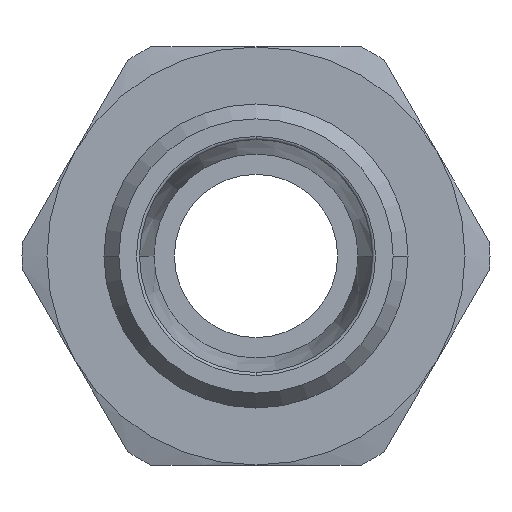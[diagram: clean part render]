
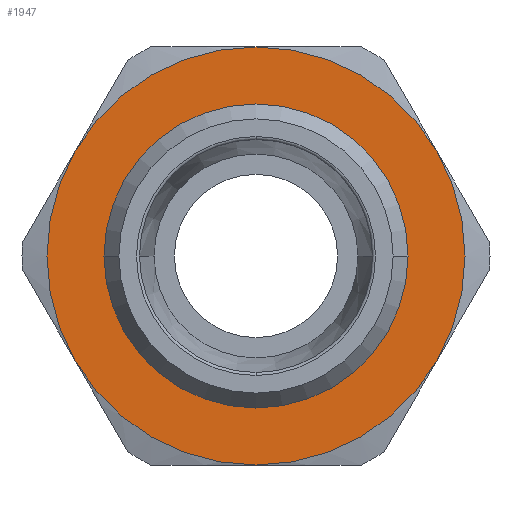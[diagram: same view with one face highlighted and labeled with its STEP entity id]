
A CAD part, left-side view. The second image highlights one B-rep face of the part: STEP entity #1947.
In plain terms, the highlighted planar face has unit normal (-1, 0, 0) as drawn and (0, 0, 1) by its records, which use the part's own axes.
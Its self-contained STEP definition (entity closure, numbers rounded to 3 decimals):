
#857=CARTESIAN_POINT('',(-14.65,0.,7.0));
#858=VERTEX_POINT('',#857);
#884=CARTESIAN_POINT('',(14.65,0.,7.0));
#885=VERTEX_POINT('',#884);
#893=CARTESIAN_POINT('',(0.,0.,7.0));
#894=DIRECTION('',(0.0,0.0,1.0));
#895=DIRECTION('',(-1.0,0.0,0.0));
#896=AXIS2_PLACEMENT_3D('',#893,#894,#895);
#897=CIRCLE('',#896,14.65);
#898=EDGE_CURVE('',#885,#858,#897,.T.);
#1827=CARTESIAN_POINT('',(0.,-14.65,7.));
#1828=VERTEX_POINT('',#1827);
#1829=CARTESIAN_POINT('',(0.,0.,7.0));
#1830=DIRECTION('',(0.0,0.0,1.0));
#1831=DIRECTION('',(-1.0,0.0,0.0));
#1832=AXIS2_PLACEMENT_3D('',#1829,#1830,#1831);
#1833=CIRCLE('',#1832,14.65);
#1834=EDGE_CURVE('',#858,#1828,#1833,.T.);
#1836=CARTESIAN_POINT('',(0.,0.,7.0));
#1837=DIRECTION('',(0.0,0.0,1.0));
#1838=DIRECTION('',(-1.0,0.0,0.0));
#1839=AXIS2_PLACEMENT_3D('',#1836,#1837,#1838);
#1840=CIRCLE('',#1839,14.65);
#1841=EDGE_CURVE('',#1828,#885,#1840,.T.);
#1881=CARTESIAN_POINT('',(0.0,0.,7.0));
#1882=DIRECTION('',(0.0,0.0,1.0));
#1883=DIRECTION('',(1.0,0.0,0.0));
#1884=AXIS2_PLACEMENT_3D('',#1881,#1882,#1883);
#1885=PLANE('',#1884);
#1886=CARTESIAN_POINT('',(10.25,-17.754,7.0));
#1887=VERTEX_POINT('',#1886);
#1888=CARTESIAN_POINT('',(20.5,0.0,7.0));
#1889=VERTEX_POINT('',#1888);
#1890=CARTESIAN_POINT('',(0.,0.0,7.0));
#1891=DIRECTION('',(0.0,0.0,1.0));
#1892=DIRECTION('',(1.0,0.0,0.0));
#1893=AXIS2_PLACEMENT_3D('',#1890,#1891,#1892);
#1894=CIRCLE('',#1893,20.5);
#1895=EDGE_CURVE('',#1887,#1889,#1894,.T.);
#1896=ORIENTED_EDGE('',*,*,#1895,.T.);
#1897=CARTESIAN_POINT('',(10.25,17.754,7.0));
#1898=VERTEX_POINT('',#1897);
#1899=CARTESIAN_POINT('',(0.,0.0,7.0));
#1900=DIRECTION('',(0.0,0.0,1.0));
#1901=DIRECTION('',(1.0,0.0,0.0));
#1902=AXIS2_PLACEMENT_3D('',#1899,#1900,#1901);
#1903=CIRCLE('',#1902,20.5);
#1904=EDGE_CURVE('',#1889,#1898,#1903,.T.);
#1905=ORIENTED_EDGE('',*,*,#1904,.T.);
#1906=CARTESIAN_POINT('',(-10.25,17.754,7.0));
#1907=VERTEX_POINT('',#1906);
#1908=CARTESIAN_POINT('',(0.,0.0,7.0));
#1909=DIRECTION('',(0.0,0.0,1.0));
#1910=DIRECTION('',(1.0,0.0,0.0));
#1911=AXIS2_PLACEMENT_3D('',#1908,#1909,#1910);
#1912=CIRCLE('',#1911,20.5);
#1913=EDGE_CURVE('',#1898,#1907,#1912,.T.);
#1914=ORIENTED_EDGE('',*,*,#1913,.T.);
#1915=CARTESIAN_POINT('',(-20.5,0.,7.0));
#1916=VERTEX_POINT('',#1915);
#1917=CARTESIAN_POINT('',(0.,0.0,7.0));
#1918=DIRECTION('',(0.0,0.0,1.0));
#1919=DIRECTION('',(1.0,0.0,0.0));
#1920=AXIS2_PLACEMENT_3D('',#1917,#1918,#1919);
#1921=CIRCLE('',#1920,20.5);
#1922=EDGE_CURVE('',#1907,#1916,#1921,.T.);
#1923=ORIENTED_EDGE('',*,*,#1922,.T.);
#1924=CARTESIAN_POINT('',(-10.25,-17.754,7.0));
#1925=VERTEX_POINT('',#1924);
#1926=CARTESIAN_POINT('',(0.,0.0,7.0));
#1927=DIRECTION('',(0.0,0.0,1.0));
#1928=DIRECTION('',(1.0,0.0,0.0));
#1929=AXIS2_PLACEMENT_3D('',#1926,#1927,#1928);
#1930=CIRCLE('',#1929,20.5);
#1931=EDGE_CURVE('',#1916,#1925,#1930,.T.);
#1932=ORIENTED_EDGE('',*,*,#1931,.T.);
#1933=CARTESIAN_POINT('',(0.,0.0,7.0));
#1934=DIRECTION('',(0.0,0.0,1.0));
#1935=DIRECTION('',(1.0,0.0,0.0));
#1936=AXIS2_PLACEMENT_3D('',#1933,#1934,#1935);
#1937=CIRCLE('',#1936,20.5);
#1938=EDGE_CURVE('',#1925,#1887,#1937,.T.);
#1939=ORIENTED_EDGE('',*,*,#1938,.T.);
#1940=EDGE_LOOP('',(#1896,#1905,#1914,#1923,#1932,#1939));
#1941=FACE_OUTER_BOUND('',#1940,.T.);
#1942=ORIENTED_EDGE('',*,*,#1841,.F.);
#1943=ORIENTED_EDGE('',*,*,#1834,.F.);
#1944=ORIENTED_EDGE('',*,*,#898,.F.);
#1945=EDGE_LOOP('',(#1942,#1943,#1944));
#1946=FACE_BOUND('',#1945,.T.);
#1947=ADVANCED_FACE('',(#1941,#1946),#1885,.T.);
